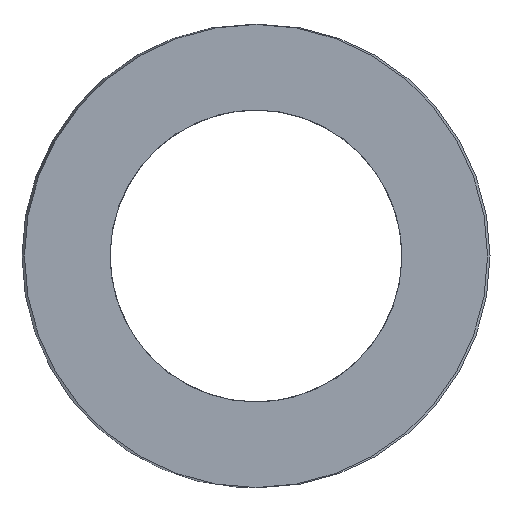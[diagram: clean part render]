
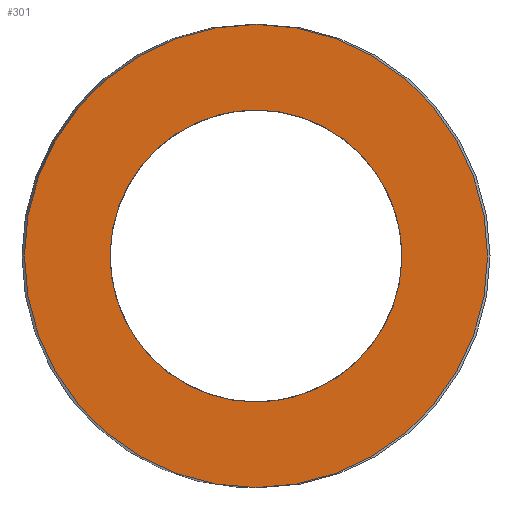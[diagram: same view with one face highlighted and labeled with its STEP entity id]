
A CAD part, left-side view. The second image highlights one B-rep face of the part: STEP entity #301.
In plain terms, the highlighted planar face has unit normal (-1, 0, 0).
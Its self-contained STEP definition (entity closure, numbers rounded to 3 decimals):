
#63=CARTESIAN_POINT('Vertex',(0.,31.1,0.)) ;
#77=CARTESIAN_POINT('Vertex',(0.,-31.1,0.)) ;
#80=CARTESIAN_POINT('Axis2P3D Location',(0.,0.,0.)) ;
#97=CARTESIAN_POINT('Axis2P3D Location',(0.,0.,0.)) ;
#232=CARTESIAN_POINT('Axis2P3D Location',(0.,15.55,0.)) ;
#242=CARTESIAN_POINT('Control Point',(0.,0.,-19.6)) ;
#243=CARTESIAN_POINT('Control Point',(0.,1.952,-19.6)) ;
#244=CARTESIAN_POINT('Control Point',(0.,3.904,-19.357)) ;
#245=CARTESIAN_POINT('Control Point',(0.,5.816,-18.871)) ;
#246=CARTESIAN_POINT('Control Point',(0.,9.478,-17.433)) ;
#247=CARTESIAN_POINT('Control Point',(0.,12.675,-15.142)) ;
#248=CARTESIAN_POINT('Control Point',(0.,14.123,-13.802)) ;
#249=CARTESIAN_POINT('Control Point',(0.,16.653,-10.789)) ;
#250=CARTESIAN_POINT('Control Point',(0.,18.368,-7.249)) ;
#251=CARTESIAN_POINT('Control Point',(0.,19.,-5.38)) ;
#252=CARTESIAN_POINT('Control Point',(0.,19.784,-1.525)) ;
#253=CARTESIAN_POINT('Control Point',(0.,19.6,2.405)) ;
#254=CARTESIAN_POINT('Control Point',(0.,19.262,4.348)) ;
#255=CARTESIAN_POINT('Control Point',(0.,18.11,8.11)) ;
#256=CARTESIAN_POINT('Control Point',(0.,16.071,11.474)) ;
#257=CARTESIAN_POINT('Control Point',(0.,14.846,13.02)) ;
#258=CARTESIAN_POINT('Control Point',(0.,12.037,15.775)) ;
#259=CARTESIAN_POINT('Control Point',(0.,8.639,17.757)) ;
#260=CARTESIAN_POINT('Control Point',(0.,6.824,18.53)) ;
#261=CARTESIAN_POINT('Control Point',(0.,4.349,19.236)) ;
#262=CARTESIAN_POINT('Control Point',(0.,1.809,19.53)) ;
#263=CARTESIAN_POINT('Control Point',(0.,1.206,19.577)) ;
#264=CARTESIAN_POINT('Control Point',(0.,0.603,19.6)) ;
#265=CARTESIAN_POINT('Control Point',(0.,0.,19.6)) ;
#266=CARTESIAN_POINT('Vertex',(0.,0.,-19.6)) ;
#268=CARTESIAN_POINT('Vertex',(0.,0.,19.6)) ;
#272=CARTESIAN_POINT('Control Point',(0.,0.,19.6)) ;
#273=CARTESIAN_POINT('Control Point',(0.,-1.952,19.6)) ;
#274=CARTESIAN_POINT('Control Point',(0.,-3.904,19.357)) ;
#275=CARTESIAN_POINT('Control Point',(0.,-5.816,18.871)) ;
#276=CARTESIAN_POINT('Control Point',(0.,-9.478,17.433)) ;
#277=CARTESIAN_POINT('Control Point',(0.,-12.675,15.142)) ;
#278=CARTESIAN_POINT('Control Point',(0.,-14.123,13.802)) ;
#279=CARTESIAN_POINT('Control Point',(0.,-16.653,10.789)) ;
#280=CARTESIAN_POINT('Control Point',(0.,-18.368,7.249)) ;
#281=CARTESIAN_POINT('Control Point',(0.,-19.,5.38)) ;
#282=CARTESIAN_POINT('Control Point',(0.,-19.784,1.525)) ;
#283=CARTESIAN_POINT('Control Point',(0.,-19.6,-2.405)) ;
#284=CARTESIAN_POINT('Control Point',(0.,-19.262,-4.348)) ;
#285=CARTESIAN_POINT('Control Point',(0.,-18.11,-8.11)) ;
#286=CARTESIAN_POINT('Control Point',(0.,-16.071,-11.474)) ;
#287=CARTESIAN_POINT('Control Point',(0.,-14.846,-13.02)) ;
#288=CARTESIAN_POINT('Control Point',(0.,-12.037,-15.775)) ;
#289=CARTESIAN_POINT('Control Point',(0.,-8.639,-17.757)) ;
#290=CARTESIAN_POINT('Control Point',(0.,-6.824,-18.53)) ;
#291=CARTESIAN_POINT('Control Point',(0.,-4.349,-19.236)) ;
#292=CARTESIAN_POINT('Control Point',(0.,-1.809,-19.53)) ;
#293=CARTESIAN_POINT('Control Point',(0.,-1.206,-19.577)) ;
#294=CARTESIAN_POINT('Control Point',(0.,-0.603,-19.6)) ;
#295=CARTESIAN_POINT('Control Point',(0.,0.,-19.6)) ;
#81=DIRECTION('Axis2P3D Direction',(1.,-0.,0.)) ;
#98=DIRECTION('Axis2P3D Direction',(1.,-0.,0.)) ;
#233=DIRECTION('Axis2P3D Direction',(-1.,0.,0.)) ;
#234=DIRECTION('Axis2P3D XDirection',(0.,1.,0.)) ;
#82=AXIS2_PLACEMENT_3D('Circle Axis2P3D',#80,#81,$) ;
#99=AXIS2_PLACEMENT_3D('Circle Axis2P3D',#97,#98,$) ;
#235=AXIS2_PLACEMENT_3D('Plane Axis2P3D',#232,#233,#234) ;
#238=ORIENTED_EDGE('',*,*,#84,.T.) ;
#239=ORIENTED_EDGE('',*,*,#101,.T.) ;
#298=ORIENTED_EDGE('',*,*,#270,.T.) ;
#299=ORIENTED_EDGE('',*,*,#296,.T.) ;
#300=FACE_BOUND('',#297,.T.) ;
#301=ADVANCED_FACE('392-B63-089',(#240,#300),#236,.T.) ;
#241=B_SPLINE_CURVE_WITH_KNOTS('',5,(#242,#243,#244,#245,#246,#247,#248,#249,#250,#251,#252,#253,#254,#255,#256,#257,#258,#259,#260,#261,#262,#263,#264,#265),.UNSPECIFIED.,.F.,.U.,(6,3,3,3,3,3,3,6),(0.,13.802,27.605,41.407,55.21,69.012,82.815,87.077),.UNSPECIFIED.) ;
#271=B_SPLINE_CURVE_WITH_KNOTS('',5,(#272,#273,#274,#275,#276,#277,#278,#279,#280,#281,#282,#283,#284,#285,#286,#287,#288,#289,#290,#291,#292,#293,#294,#295),.UNSPECIFIED.,.F.,.U.,(6,3,3,3,3,3,3,6),(0.,13.802,27.605,41.407,55.21,69.012,82.815,87.077),.UNSPECIFIED.) ;
#83=CIRCLE('generated circle',#82,31.1) ;
#100=CIRCLE('generated circle',#99,31.1) ;
#84=EDGE_CURVE('',#64,#78,#83,.F.) ;
#101=EDGE_CURVE('',#78,#64,#100,.F.) ;
#270=EDGE_CURVE('',#267,#269,#241,.T.) ;
#296=EDGE_CURVE('',#269,#267,#271,.T.) ;
#237=EDGE_LOOP('',(#238,#239)) ;
#297=EDGE_LOOP('',(#298,#299)) ;
#240=FACE_OUTER_BOUND('',#237,.T.) ;
#236=PLANE('Plane',#235) ;
#64=VERTEX_POINT('',#63) ;
#78=VERTEX_POINT('',#77) ;
#267=VERTEX_POINT('',#266) ;
#269=VERTEX_POINT('',#268) ;
